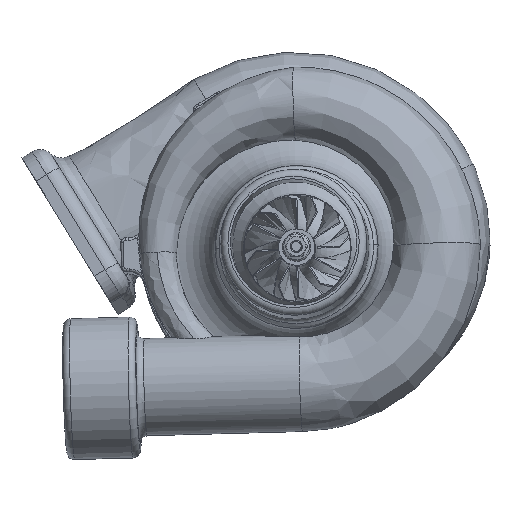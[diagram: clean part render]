
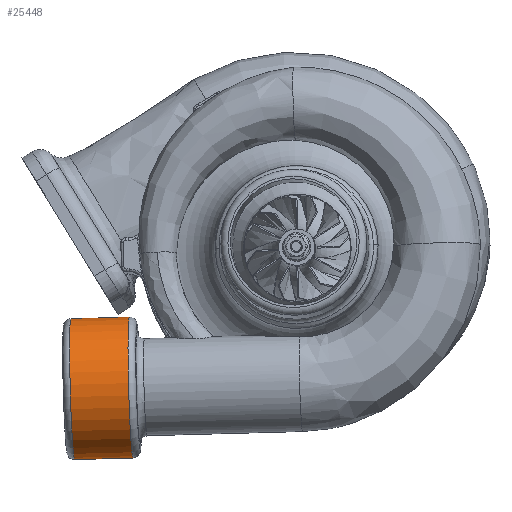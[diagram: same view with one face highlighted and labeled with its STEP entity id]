
A CAD part, left-side view. The second image highlights one B-rep face of the part: STEP entity #25448.
In plain terms, the highlighted cylindrical face has radius 23.2 mm (diameter 46.4 mm), a full revolution.
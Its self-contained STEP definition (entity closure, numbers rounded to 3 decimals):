
#3033=FACE_OUTER_BOUND('',#4569,.T.);
#4569=EDGE_LOOP('',(#16962,#16963,#16964,#16965,#16966));
#6226=LINE('',#39291,#7367);
#7367=VECTOR('',#29760,23.2);
#8516=CIRCLE('',#27043,23.2);
#8525=CIRCLE('',#27054,23.2);
#8526=CIRCLE('',#27055,23.2);
#9865=VERTEX_POINT('',#38115);
#9872=VERTEX_POINT('',#38133);
#9873=VERTEX_POINT('',#38135);
#12617=EDGE_CURVE('',#9865,#9865,#8516,.T.);
#12626=EDGE_CURVE('',#9873,#9872,#8525,.T.);
#12627=EDGE_CURVE('',#9872,#9873,#8526,.T.);
#12737=EDGE_CURVE('',#9873,#9865,#6226,.T.);
#16962=ORIENTED_EDGE('',*,*,#12627,.T.);
#16963=ORIENTED_EDGE('',*,*,#12737,.T.);
#16964=ORIENTED_EDGE('',*,*,#12617,.F.);
#16965=ORIENTED_EDGE('',*,*,#12737,.F.);
#16966=ORIENTED_EDGE('',*,*,#12626,.T.);
#24982=CYLINDRICAL_SURFACE('',#27128,23.2);
#25448=ADVANCED_FACE('',(#3033),#24982,.T.);
#27043=AXIS2_PLACEMENT_3D('',#38117,#29567,#29568);
#27054=AXIS2_PLACEMENT_3D('',#38136,#29589,#29590);
#27055=AXIS2_PLACEMENT_3D('',#38137,#29591,#29592);
#27128=AXIS2_PLACEMENT_3D('',#39290,#29758,#29759);
#29567=DIRECTION('center_axis',(0.502,0.865,0.));
#29568=DIRECTION('ref_axis',(0.,0.,
1.));
#29589=DIRECTION('center_axis',(0.502,0.865,0.));
#29590=DIRECTION('ref_axis',(0.,0.,
-1.));
#29591=DIRECTION('center_axis',(0.502,0.865,0.));
#29592=DIRECTION('ref_axis',(0.,0.,
-1.));
#29758=DIRECTION('center_axis',(-0.502,-0.865,0.));
#29759=DIRECTION('ref_axis',(0.,0.,
-1.));
#29760=DIRECTION('',(0.502,0.865,0.));
#38115=CARTESIAN_POINT('',(7.714,-68.033,77.8));
#38117=CARTESIAN_POINT('Origin',(7.714,-68.033,54.6));
#38133=CARTESIAN_POINT('',(-1.93,-84.635,31.4));
#38135=CARTESIAN_POINT('',(-1.93,-84.635,77.8));
#38136=CARTESIAN_POINT('Origin',(-1.93,-84.635,54.6));
#38137=CARTESIAN_POINT('Origin',(-1.93,-84.635,54.6));
#39290=CARTESIAN_POINT('Origin',(8.92,-65.958,54.6));
#39291=CARTESIAN_POINT('',(8.92,-65.958,77.8));
